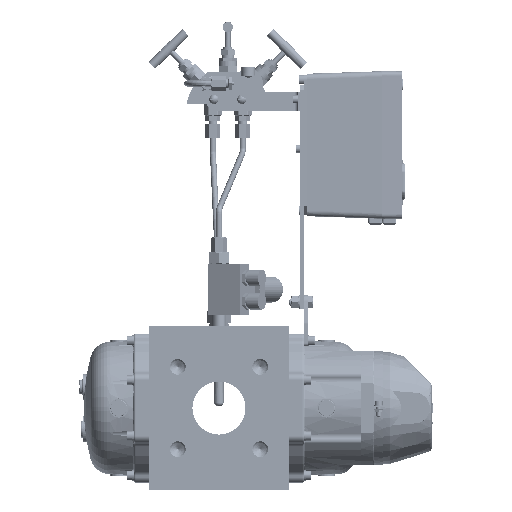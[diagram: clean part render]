
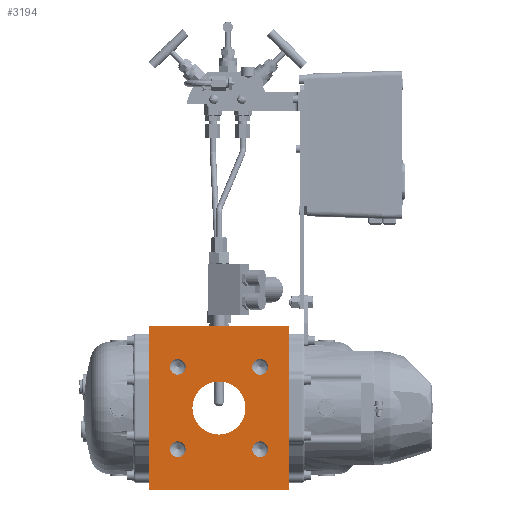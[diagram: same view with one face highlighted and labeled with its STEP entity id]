
A CAD part, front view. The second image highlights one B-rep face of the part: STEP entity #3194.
In plain terms, the highlighted planar face has unit normal (0, -1, 0).
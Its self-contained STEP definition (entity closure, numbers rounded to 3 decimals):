
#3194=ADVANCED_FACE('',(#100386,#100388,#100390,#100392,#100394,#100396),#100398,
.T.);
#100386=FACE_BOUND('',#100387,.T.);
#100387=EDGE_LOOP('',(#182064,#182065,#182066,#182067));
#100388=FACE_BOUND('',#100389,.T.);
#100389=EDGE_LOOP('',(#182068));
#100390=FACE_BOUND('',#100391,.T.);
#100391=EDGE_LOOP('',(#182069));
#100392=FACE_BOUND('',#100393,.T.);
#100393=EDGE_LOOP('',(#182070));
#100394=FACE_BOUND('',#100395,.T.);
#100395=EDGE_LOOP('',(#182071));
#100396=FACE_BOUND('',#100397,.T.);
#100397=EDGE_LOOP('',(#182072));
#100398=PLANE('',#100399);
#100399=AXIS2_PLACEMENT_3D('',#100400,#100401,#100402);
#100400=CARTESIAN_POINT('',(-75.5,-85.5,88.));
#100401=DIRECTION('',(0.,-1.,0.));
#100402=DIRECTION('',(0.,0.,-1.));
#182064=ORIENTED_EDGE('',*,*,#250531,.T.);
#182065=ORIENTED_EDGE('',*,*,#250532,.T.);
#182066=ORIENTED_EDGE('',*,*,#250340,.T.);
#182067=ORIENTED_EDGE('',*,*,#250530,.F.);
#182068=ORIENTED_EDGE('',*,*,#250533,.T.);
#182069=ORIENTED_EDGE('',*,*,#250534,.T.);
#182070=ORIENTED_EDGE('',*,*,#250535,.T.);
#182071=ORIENTED_EDGE('',*,*,#250536,.T.);
#182072=ORIENTED_EDGE('',*,*,#250537,.T.);
#250340=EDGE_CURVE('',#281051,#281049,#281052,.T.);
#250530=EDGE_CURVE('',#281372,#281049,#281374,.T.);
#250531=EDGE_CURVE('',#281372,#281375,#281376,.T.);
#250532=EDGE_CURVE('',#281375,#281051,#281377,.T.);
#250533=EDGE_CURVE('',#281378,#281378,#281379,.T.);
#250534=EDGE_CURVE('',#281380,#281380,#281381,.T.);
#250535=EDGE_CURVE('',#281382,#281382,#281383,.T.);
#250536=EDGE_CURVE('',#281384,#281384,#281385,.T.);
#250537=EDGE_CURVE('',#281386,#281386,#281387,.T.);
#281049=VERTEX_POINT('',#333867);
#281051=VERTEX_POINT('',#333871);
#281052=LINE('',#333872,#333873);
#281372=VERTEX_POINT('',#335642);
#281374=LINE('',#335646,#335647);
#281375=VERTEX_POINT('',#335649);
#281376=LINE('',#335650,#335651);
#281377=LINE('',#335653,#335654);
#281378=VERTEX_POINT('',#335656);
#281379=CIRCLE('',#335657,8.417);
#281380=VERTEX_POINT('',#335661);
#281381=CIRCLE('',#335662,8.417);
#281382=VERTEX_POINT('',#335666);
#281383=CIRCLE('',#335667,8.417);
#281384=VERTEX_POINT('',#335671);
#281385=CIRCLE('',#335672,28.5);
#281386=VERTEX_POINT('',#335676);
#281387=CIRCLE('',#335677,8.417);
#333867=CARTESIAN_POINT('',(75.5,-85.5,88.));
#333871=CARTESIAN_POINT('',(75.5,-85.5,-88.));
#333872=CARTESIAN_POINT('',(75.5,-85.5,-88.));
#333873=VECTOR('',#333874,1.);
#333874=DIRECTION('',(0.,0.,1.));
#335642=CARTESIAN_POINT('',(-75.5,-85.5,88.));
#335646=CARTESIAN_POINT('',(-75.5,-85.5,88.));
#335647=VECTOR('',#335648,1.);
#335648=DIRECTION('',(1.,0.,0.));
#335649=CARTESIAN_POINT('',(-75.5,-85.5,-88.));
#335650=CARTESIAN_POINT('',(-75.5,-85.5,88.));
#335651=VECTOR('',#335652,1.);
#335652=DIRECTION('',(0.,0.,-1.));
#335653=CARTESIAN_POINT('',(-75.5,-85.5,-88.));
#335654=VECTOR('',#335655,1.);
#335655=DIRECTION('',(1.,0.,0.));
#335656=CARTESIAN_POINT('',(52.612,-85.5,44.194));
#335657=AXIS2_PLACEMENT_3D('',#335658,#335659,#335660);
#335658=CARTESIAN_POINT('',(44.194,-85.5,44.194));
#335659=DIRECTION('',(0.,1.,0.));
#335660=DIRECTION('',(1.,0.,0.));
#335661=CARTESIAN_POINT('',(52.612,-85.5,-44.194));
#335662=AXIS2_PLACEMENT_3D('',#335663,#335664,#335665);
#335663=CARTESIAN_POINT('',(44.194,-85.5,-44.194));
#335664=DIRECTION('',(0.,1.,0.));
#335665=DIRECTION('',(1.,0.,0.));
#335666=CARTESIAN_POINT('',(-35.777,-85.5,-44.194));
#335667=AXIS2_PLACEMENT_3D('',#335668,#335669,#335670);
#335668=CARTESIAN_POINT('',(-44.194,-85.5,-44.194));
#335669=DIRECTION('',(0.,1.,0.));
#335670=DIRECTION('',(1.,0.,0.));
#335671=CARTESIAN_POINT('',(-28.5,-85.5,0.));
#335672=AXIS2_PLACEMENT_3D('',#335673,#335674,#335675);
#335673=CARTESIAN_POINT('',(0.,-85.5,0.));
#335674=DIRECTION('',(0.,1.,0.));
#335675=DIRECTION('',(-1.,0.,0.));
#335676=CARTESIAN_POINT('',(-35.777,-85.5,44.194));
#335677=AXIS2_PLACEMENT_3D('',#335678,#335679,#335680);
#335678=CARTESIAN_POINT('',(-44.194,-85.5,44.194));
#335679=DIRECTION('',(0.,1.,0.));
#335680=DIRECTION('',(1.,0.,0.));
